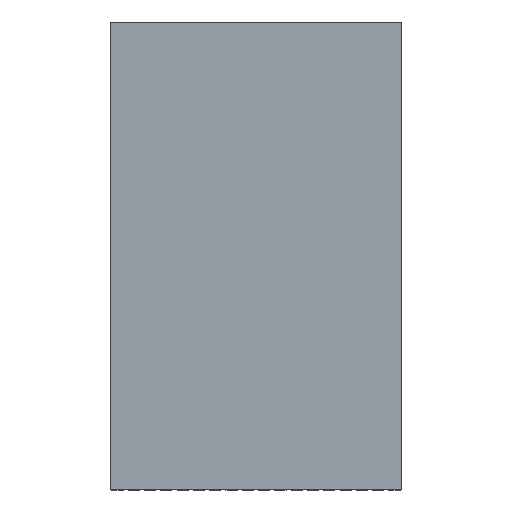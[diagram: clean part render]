
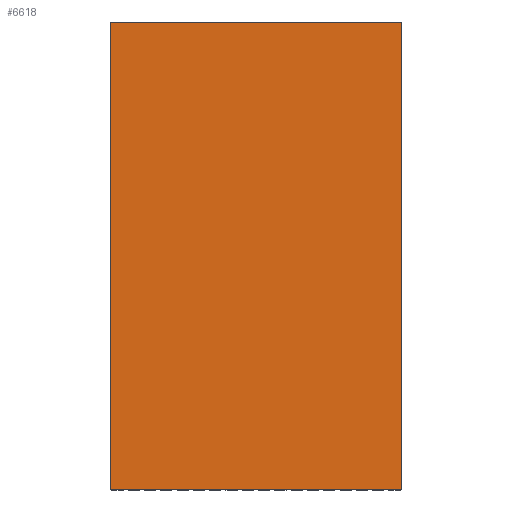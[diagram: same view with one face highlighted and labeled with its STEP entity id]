
A CAD part, top view. The second image highlights one B-rep face of the part: STEP entity #6618.
In plain terms, the highlighted planar face has unit normal (0, 0, 1).
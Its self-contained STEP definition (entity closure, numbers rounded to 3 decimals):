
#56=PLANE('',#7606);
#569=LINE('',#12045,#1013);
#573=LINE('',#12054,#1017);
#579=LINE('',#12088,#1023);
#580=LINE('',#12091,#1024);
#1013=VECTOR('',#9790,10.);
#1017=VECTOR('',#9800,10.);
#1023=VECTOR('',#9856,10.);
#1024=VECTOR('',#9859,10.);
#1674=FACE_OUTER_BOUND('',#2124,.T.);
#2124=EDGE_LOOP('',(#5871,#5872,#5873,#5874,#5875,#5876,#5877,#5878));
#2709=CIRCLE('',#7579,2.);
#2710=CIRCLE('',#7582,2.);
#2711=CIRCLE('',#7603,2.);
#2712=CIRCLE('',#7607,2.);
#3233=VERTEX_POINT('',#12042);
#3234=VERTEX_POINT('',#12044);
#3235=VERTEX_POINT('',#12048);
#3236=VERTEX_POINT('',#12052);
#3237=VERTEX_POINT('',#12056);
#3238=VERTEX_POINT('',#12080);
#3239=VERTEX_POINT('',#12082);
#3240=VERTEX_POINT('',#12090);
#4149=EDGE_CURVE('',#3234,#3233,#569,.T.);
#4152=EDGE_CURVE('',#3235,#3233,#2709,.T.);
#4154=EDGE_CURVE('',#3235,#3236,#573,.T.);
#4156=EDGE_CURVE('',#3237,#3236,#2710,.T.);
#4159=EDGE_CURVE('',#3238,#3239,#2711,.T.);
#4162=EDGE_CURVE('',#3237,#3239,#579,.T.);
#4163=EDGE_CURVE('',#3238,#3240,#580,.T.);
#4164=EDGE_CURVE('',#3234,#3240,#2712,.T.);
#5871=ORIENTED_EDGE('',*,*,#4159,.F.);
#5872=ORIENTED_EDGE('',*,*,#4163,.T.);
#5873=ORIENTED_EDGE('',*,*,#4164,.F.);
#5874=ORIENTED_EDGE('',*,*,#4149,.T.);
#5875=ORIENTED_EDGE('',*,*,#4152,.F.);
#5876=ORIENTED_EDGE('',*,*,#4154,.T.);
#5877=ORIENTED_EDGE('',*,*,#4156,.F.);
#5878=ORIENTED_EDGE('',*,*,#4162,.T.);
#6618=ADVANCED_FACE('',(#1674),#56,.T.);
#7579=AXIS2_PLACEMENT_3D('',#12050,#9795,#9796);
#7582=AXIS2_PLACEMENT_3D('',#12058,#9804,#9805);
#7603=AXIS2_PLACEMENT_3D('',#12083,#9848,#9849);
#7606=AXIS2_PLACEMENT_3D('',#12089,#9857,#9858);
#7607=AXIS2_PLACEMENT_3D('',#12092,#9860,#9861);
#9790=DIRECTION('',(1.,0.,0.));
#9795=DIRECTION('center_axis',(0.,0.,-1.));
#9796=DIRECTION('ref_axis',(0.707,-0.707,0.));
#9800=DIRECTION('',(0.,1.,0.));
#9804=DIRECTION('center_axis',(0.,0.,-1.));
#9805=DIRECTION('ref_axis',(0.707,0.707,0.));
#9848=DIRECTION('center_axis',(0.,0.,-1.));
#9849=DIRECTION('ref_axis',(-0.707,0.707,0.));
#9856=DIRECTION('',(-1.,0.,0.));
#9857=DIRECTION('center_axis',(0.,0.,1.));
#9858=DIRECTION('ref_axis',(1.,0.,0.));
#9859=DIRECTION('',(0.,-1.,0.));
#9860=DIRECTION('center_axis',(0.,0.,-1.));
#9861=DIRECTION('ref_axis',(-0.707,-0.707,0.));
#12042=CARTESIAN_POINT('',(221.5,-359.,18.));
#12044=CARTESIAN_POINT('',(-221.5,-359.,18.));
#12045=CARTESIAN_POINT('',(-223.5,-359.,18.));
#12048=CARTESIAN_POINT('',(223.5,-357.,18.));
#12050=CARTESIAN_POINT('Origin',(221.5,-357.,18.));
#12052=CARTESIAN_POINT('',(223.5,357.,18.));
#12054=CARTESIAN_POINT('',(223.5,-359.,18.));
#12056=CARTESIAN_POINT('',(221.5,359.,18.));
#12058=CARTESIAN_POINT('Origin',(221.5,357.,18.));
#12080=CARTESIAN_POINT('',(-223.5,357.,18.));
#12082=CARTESIAN_POINT('',(-221.5,359.,18.));
#12083=CARTESIAN_POINT('Origin',(-221.5,357.,18.));
#12088=CARTESIAN_POINT('',(223.5,359.,18.));
#12089=CARTESIAN_POINT('Origin',(0.,0.,18.));
#12090=CARTESIAN_POINT('',(-223.5,-357.,18.));
#12091=CARTESIAN_POINT('',(-223.5,359.,18.));
#12092=CARTESIAN_POINT('Origin',(-221.5,-357.,18.));
